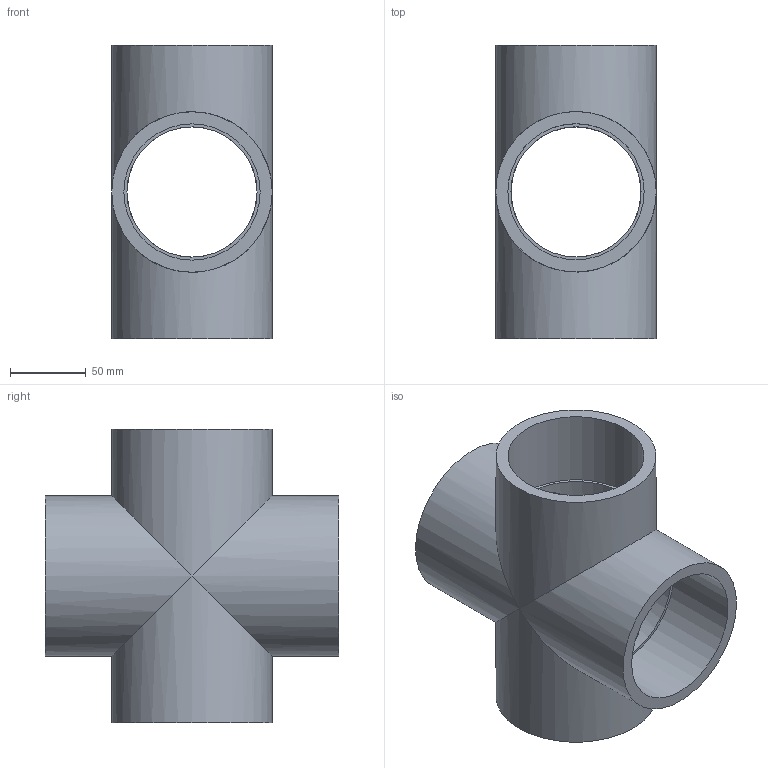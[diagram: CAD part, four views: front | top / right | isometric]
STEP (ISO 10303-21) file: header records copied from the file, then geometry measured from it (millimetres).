
FILE_DESCRIPTION(/* description */ ('Croci a 90° PVC'),/* implementation_level */ '2;1');
FILE_NAME(/* name */ 'C:\Users\POLYPIPE\Desktop\DATASET INVENTOR\LIBRERIA EFFAST\RACCORDI 3DxWEB\RDR\3D_RDRCRD\3D_RDRCRD0900.stp',/* time_stamp */ '2018-01-19T14:18:03+01:00',/* author */ ('POLYPIPE'),/* organization */ ('Polypipe Italia s.r.l.'),/* preprocessor_version */ 'ST-DEVELOPER v16.1',/* originating_system */ 'Autodesk Inventor 2016',/* authorisation */ '');
FILE_SCHEMA (('CONFIG_CONTROL_DESIGN'));
Length unit declared in the file: millimetre
Products named in the file (1): 3D_RDRCRD
Bounding box: 106 x 194 x 194 mm (x, y, z)
Volume: 687411.7 mm3; surface area: 174135.4 mm2
Topology: 1 solids, 1 shells, 20 faces, 36 edges, 20 vertices
Faces by surface type: cylinder 12, plane 8
Full cylindrical faces by diameter (mm): 86 x4, 90 x4, 106 x4
Entity records: 464 total; most frequent: DIRECTION 90, CARTESIAN_POINT 65, ORIENTED_EDGE 48, AXIS2_PLACEMENT_3D 45, EDGE_LOOP 40, EDGE_CURVE 24, FACE_BOUND 20, FACE_OUTER_BOUND 20
